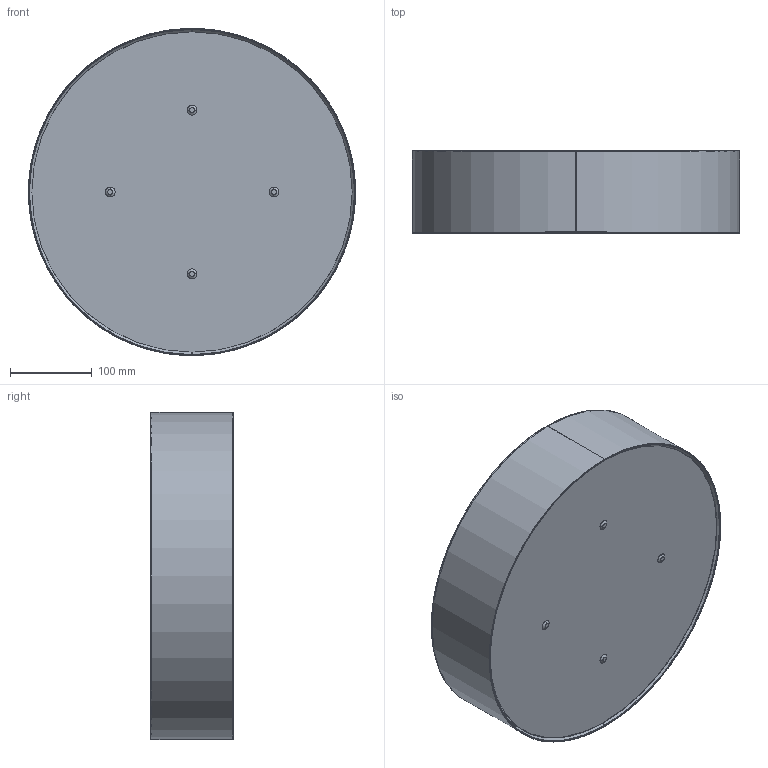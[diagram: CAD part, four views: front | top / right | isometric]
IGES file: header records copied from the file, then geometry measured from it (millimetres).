
Start section: SolidWorks IGES file using analytic representation for surfaces
Global section: file name: C:\Users\danielet\Desktop\3D CARLOS\ISIA-DIF3453-3D\ISIA-DIF3453-3D.IGS; native system: SolidWorks 2018; preprocessor: SolidWorks 2018; author: danielet; date: 211122.123924; units: millimetre
Bounding box: 400.06 x 100.47 x 400.06 mm (x, y, z)
Surface area: 526756.1 mm2 (no closed solid volume)
Topology: 0 solids, 0 shells, 31 faces, 856 edges, 856 vertices
Faces by surface type: revolution 18, bspline 13
